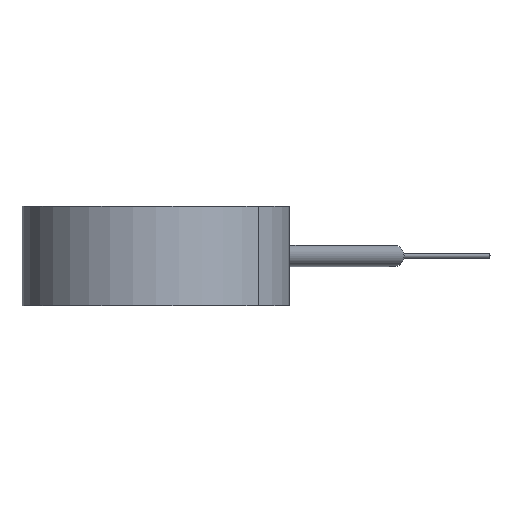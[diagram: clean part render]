
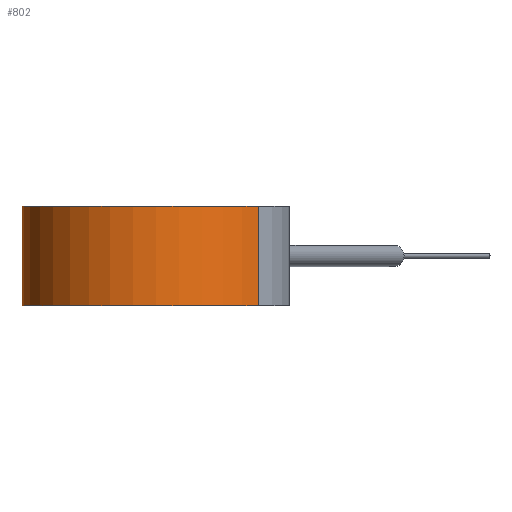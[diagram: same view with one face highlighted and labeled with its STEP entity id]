
A CAD part, front view. The second image highlights one B-rep face of the part: STEP entity #802.
In plain terms, the highlighted cylindrical face has radius 24.5 mm (diameter 49 mm), a partial arc.
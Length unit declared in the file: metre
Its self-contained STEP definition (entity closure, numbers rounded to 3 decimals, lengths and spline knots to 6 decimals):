
#36 = CIRCLE ( 'NONE', #713, 0.0245 ) ;
#38 = VECTOR ( 'NONE', #762, 1. ) ;
#47 = CARTESIAN_POINT ( 'NONE',  ( 0., 0., 0. ) ) ;
#69 = VERTEX_POINT ( 'NONE', #698 ) ;
#258 = CARTESIAN_POINT ( 'NONE',  ( 0., 0., 0.0183 ) ) ;
#266 = ORIENTED_EDGE ( 'NONE', *, *, #1000, .T. ) ;
#287 = DIRECTION ( 'NONE',  ( 0., 0., -1. ) ) ;
#331 = CARTESIAN_POINT ( 'NONE',  ( 0., -0.0245, 0. ) ) ;
#354 = ORIENTED_EDGE ( 'NONE', *, *, #459, .F. ) ;
#357 = DIRECTION ( 'NONE',  ( 0., 1., 0. ) ) ;
#413 = VERTEX_POINT ( 'NONE', #331 ) ;
#416 = LINE ( 'NONE', #676, #38 ) ;
#426 = CARTESIAN_POINT ( 'NONE',  ( 0., -0.0245, 0.0183 ) ) ;
#437 = DIRECTION ( 'NONE',  ( 0., 1., 0. ) ) ;
#451 = ORIENTED_EDGE ( 'NONE', *, *, #950, .F. ) ;
#459 = EDGE_CURVE ( 'NONE', #69, #540, #36, .T. ) ;
#490 = VECTOR ( 'NONE', #1002, 1. ) ;
#525 = CARTESIAN_POINT ( 'NONE',  ( 0., 0.0245, 0. ) ) ;
#540 = VERTEX_POINT ( 'NONE', #905 ) ;
#604 = CARTESIAN_POINT ( 'NONE',  ( 0., 0., 0.0183 ) ) ;
#613 = CIRCLE ( 'NONE', #876, 0.0245 ) ;
#631 = ORIENTED_EDGE ( 'NONE', *, *, #882, .F. ) ;
#676 = CARTESIAN_POINT ( 'NONE',  ( 0., 0.0245, 0.0183 ) ) ;
#677 = DIRECTION ( 'NONE',  ( 0., 0., -1. ) ) ;
#698 = CARTESIAN_POINT ( 'NONE',  ( 0., -0.0245, 0.0183 ) ) ;
#713 = AXIS2_PLACEMENT_3D ( 'NONE', #258, #804, #806 ) ;
#734 = AXIS2_PLACEMENT_3D ( 'NONE', #604, #677, #357 ) ;
#757 = FACE_OUTER_BOUND ( 'NONE', #883, .T. ) ;
#761 = VERTEX_POINT ( 'NONE', #525 ) ;
#762 = DIRECTION ( 'NONE',  ( 0., 0., -1. ) ) ;
#783 = CYLINDRICAL_SURFACE ( 'NONE', #734, 0.0245 ) ;
#802 = ADVANCED_FACE ( 'NONE', ( #757 ), #783, .T. ) ;
#804 = DIRECTION ( 'NONE',  ( 0., 0., 1. ) ) ;
#806 = DIRECTION ( 'NONE',  ( 0., 1., 0. ) ) ;
#846 = LINE ( 'NONE', #426, #490 ) ;
#876 = AXIS2_PLACEMENT_3D ( 'NONE', #47, #287, #437 ) ;
#882 = EDGE_CURVE ( 'NONE', #761, #413, #613, .T. ) ;
#883 = EDGE_LOOP ( 'NONE', ( #354, #266, #631, #451 ) ) ;
#905 = CARTESIAN_POINT ( 'NONE',  ( 0., 0.0245, 0.0183 ) ) ;
#950 = EDGE_CURVE ( 'NONE', #540, #761, #416, .T. ) ;
#1000 = EDGE_CURVE ( 'NONE', #69, #413, #846, .T. ) ;
#1002 = DIRECTION ( 'NONE',  ( 0., 0., -1. ) ) ;
